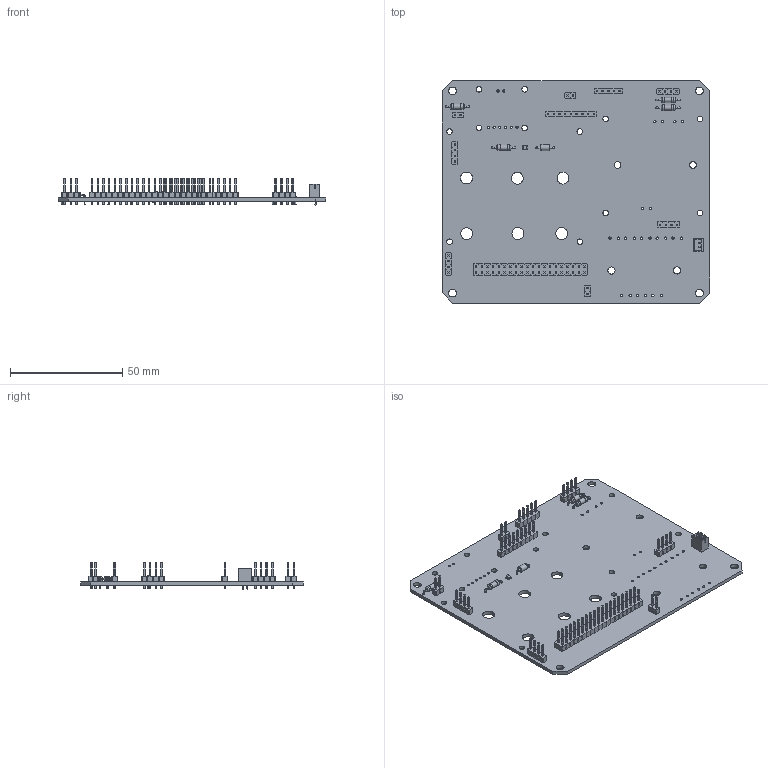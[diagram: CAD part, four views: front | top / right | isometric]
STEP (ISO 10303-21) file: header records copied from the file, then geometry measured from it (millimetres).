
FILE_DESCRIPTION(('KiCad electronic assembly'),'2;1');
FILE_NAME('Deck_Plate_Daughter.step','2020-04-14T00:19:54',('An Author') ,('A Company'),'Open CASCADE STEP processor 6.9', 'KiCad to STEP converter','Unknown');
FILE_SCHEMA(('AUTOMOTIVE_DESIGN { 1 0 10303 214 1 1 1 1 }'));
Length unit declared in the file: millimetre
Products named in the file (20): Open CASCADE STEP translator 6.9 1; PinHeader_1x04_P2.54mm_Vertical; SOLID; SOT-353_SC-70-5; R_Axial_DIN0207_L6.3mm_D2.5mm_P10.16mm_Horizontal; C_Axial_L3.8mm_D2.6mm_P7.50mm_Horizontal; PinHeader_1x02_P2.54mm_Vertical; PinHeader_1x05_P2.54mm_Vertical; PinHeader_1x09_P2.54mm_Vertical; PinHeader_2x20_P2.54mm_Vertical; JST_PH_B2B-PH-K_1x02_P2.00mm_Vertical; COMPOUND
Assembly tree (27 placements, depth 3):
  Open CASCADE STEP translator 6.9 1
    PinHeader_1x04_P2.54mm_Vertical  x4
      SOLID
    SOT-353_SC-70-5
      SOLID
    R_Axial_DIN0207_L6.3mm_D2.5mm_P10.16mm_Horizontal  x4
      SOLID
    C_Axial_L3.8mm_D2.6mm_P7.50mm_Horizontal
      SOLID
    PinHeader_1x02_P2.54mm_Vertical  x3
      SOLID
    PinHeader_1x05_P2.54mm_Vertical
      SOLID
    PinHeader_1x09_P2.54mm_Vertical
      SOLID
    PinHeader_2x20_P2.54mm_Vertical
      SOLID
    JST_PH_B2B-PH-K_1x02_P2.00mm_Vertical
      SOLID
    COMPOUND
Bounding box: 119.03 x 99.06 x 11.94 mm (x, y, z)
Volume: 19962.5 mm3; surface area: 28716.3 mm2
Topology: 18 solids, 18 shells, 2178 faces, 5204 edges, 3237 vertices
Faces by surface type: plane 1930, cylinder 201, bspline 29, torus 16, revolution 2
Full cylindrical faces by diameter (mm): 0.5 x4, 0.6 x16, 0.75 x2, 0.8 x10, 1 x76, 1.02 x30, 2.25 x4, 2.34 x2, 2.5 x20, 2.6 x1, 3 x2, 3.2 x2, 3.5 x4, 5.3 x6
Entity records: 115048 total; most frequent: CARTESIAN_POINT 17297, DIRECTION 16188, LINE 11683, VECTOR 11683, ORIENTED_EDGE 8330, PCURVE 8330, DEFINITIONAL_REPRESENTATION 8330, EDGE_CURVE 4165
